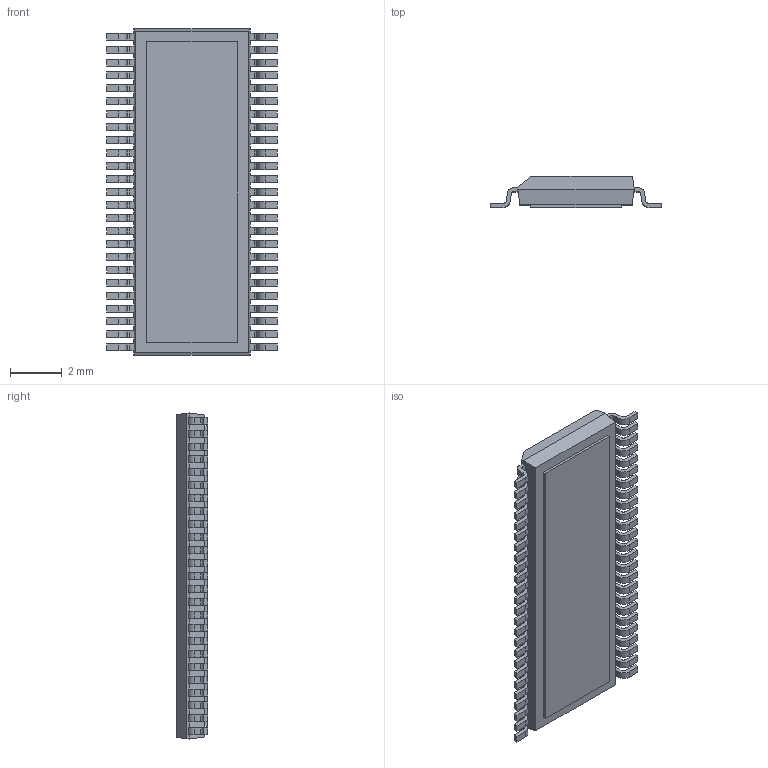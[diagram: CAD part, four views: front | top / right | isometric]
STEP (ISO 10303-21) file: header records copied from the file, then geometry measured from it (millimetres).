
FILE_DESCRIPTION (( 'STEP AP214' ), '1' );
FILE_NAME ('TSSOP50P640X120-50TP_MO-153.BFT.STEP', '2014-10-29T08:31:17', ( 'Tester2' ), ( '' ), 'SwSTEP 2.0', 'SolidWorks 2012', '' );
FILE_SCHEMA (( 'AUTOMOTIVE_DESIGN' ));
Length unit declared in the file: millimetre
Products named in the file (1): TSSOP50P640X120-50TP_MO-153.BFT
Bounding box: 6.6 x 1.2 x 12.6 mm (x, y, z)
Volume: 66.8 mm3; surface area: 207.7 mm2
Topology: 1 solids, 1 shells, 669 faces, 1991 edges, 1326 vertices
Faces by surface type: plane 467, cylinder 202
Entity records: 29629 total; most frequent: CARTESIAN_POINT 3987, ORIENTED_EDGE 3982, DIRECTION 3735, EDGE_CURVE 1991, LINE 1587, VECTOR 1587, VERTEX_POINT 1326, AXIS2_PLACEMENT_3D 1074
